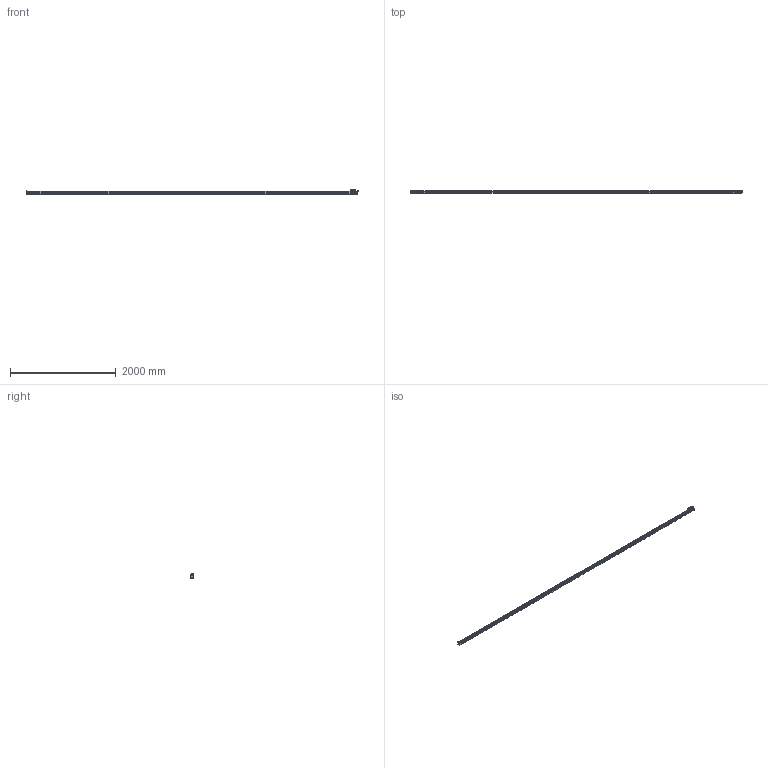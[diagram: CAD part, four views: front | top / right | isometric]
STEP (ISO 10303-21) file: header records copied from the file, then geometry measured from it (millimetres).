
FILE_DESCRIPTION(('Creo Elements/Direct Modeling STEP Export'),'2;1');
FILE_NAME('REGLA_L3_6040_T.stp','2021-02-04T13:15:49',(''),(''),'Creo Elements/Direct Modeling STEP processor for AP214 (Solid Model)','Creo Elements/Direct Modeling 19.0G 27-Nov-2017 (C) Parametric Technology GmbH','');
FILE_SCHEMA(('AUTOMOTIVE_DESIGN { 1 0 10303 214 1 1 1 1 }'));
Length unit declared in the file: millimetre
Products named in the file (3): CABEZA_L3_T_M6; PERFIL_L3_6040; MOD_L3_6040_T
Assembly tree (2 placements, depth 2):
  MOD_L3_6040_T
    PERFIL_L3_6040
    CABEZA_L3_T_M6
Bounding box: 6290 x 50 x 85 mm (x, y, z)
Volume: 16317805.8 mm3; surface area: 1823996.9 mm2
Topology: 2 solids, 2 shells, 2268 faces, 6502 edges, 4339 vertices
Faces by surface type: plane 1139, cylinder 779, cone 235, bspline 59, torus 50, extrusion 6
Entity records: 90103 total; most frequent: CARTESIAN_POINT 25643, ORIENTED_EDGE 12988, DIRECTION 11487, EDGE_CURVE 6494, VERTEX_POINT 4339, VECTOR 4083, LINE 4077, AXIS2_PLACEMENT_3D 3702
